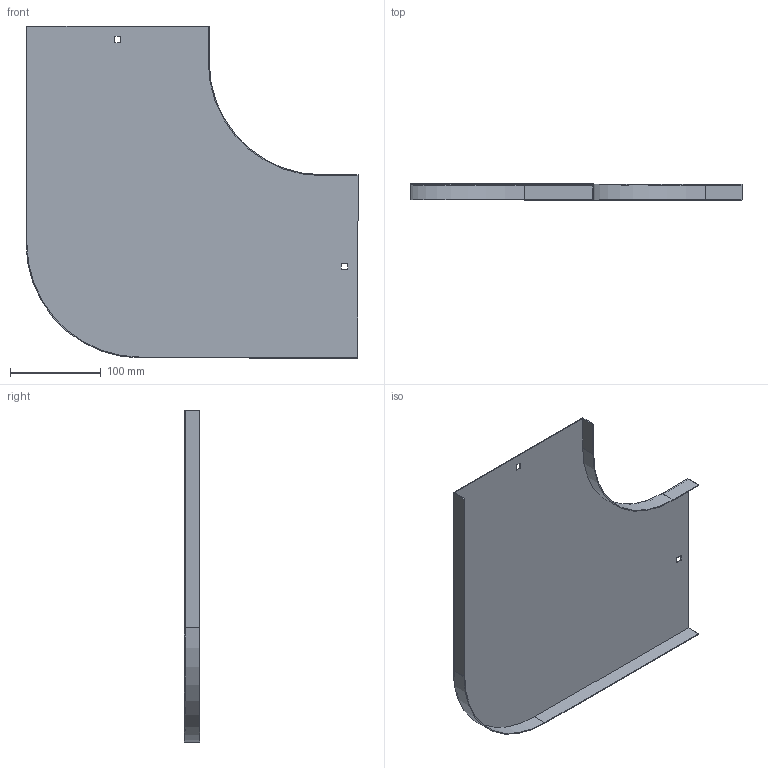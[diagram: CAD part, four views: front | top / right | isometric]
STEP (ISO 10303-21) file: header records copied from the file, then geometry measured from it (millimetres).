
FILE_DESCRIPTION (( 'STEP AP214' ), '1' );
FILE_NAME ('OP9_200.step', '2025-07-16T09:15:03', ( '' ), ( '' ), 'SwSTEP 2.0', 'SolidWorks 2023', '' );
FILE_SCHEMA (( 'AUTOMOTIVE_DESIGN' ));
Length unit declared in the file: millimetre
Products named in the file (1): OP9_200
Bounding box: 366 x 17 x 366 mm (x, y, z)
Volume: 122111.9 mm3; surface area: 245696.5 mm2
Topology: 1 solids, 1 shells, 26 faces, 72 edges, 48 vertices
Faces by surface type: plane 22, cylinder 4
Entity records: 855 total; most frequent: CARTESIAN_POINT 147, ORIENTED_EDGE 144, DIRECTION 134, EDGE_CURVE 72, VECTOR 64, LINE 64, VERTEX_POINT 48, AXIS2_PLACEMENT_3D 35
